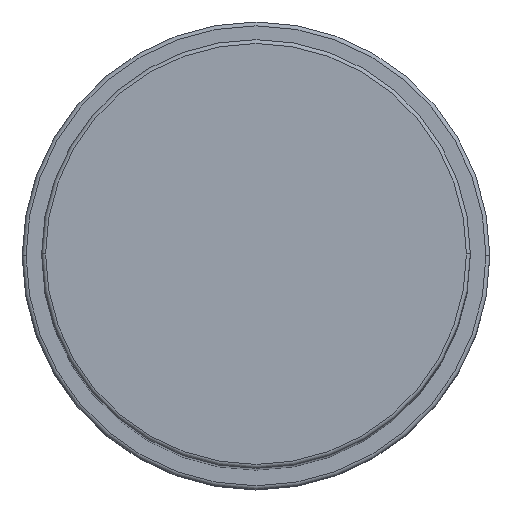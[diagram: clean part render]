
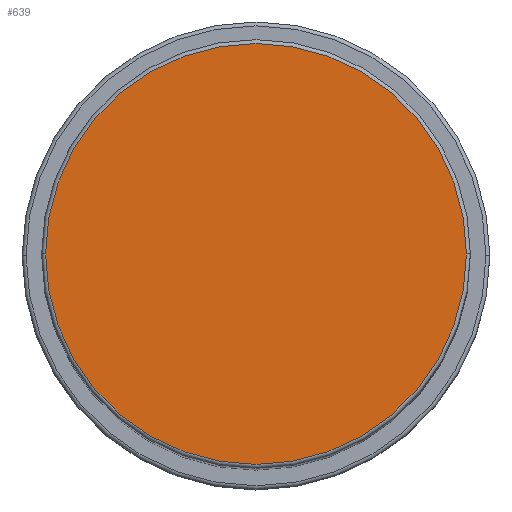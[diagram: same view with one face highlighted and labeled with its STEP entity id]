
A CAD part, top view. The second image highlights one B-rep face of the part: STEP entity #639.
In plain terms, the highlighted planar face has unit normal (0, 0, 1).
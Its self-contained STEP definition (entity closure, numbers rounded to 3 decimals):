
#59 = AXIS2_PLACEMENT_3D ( 'NONE', #419, #1991, #1836 ) ;
#126 = CARTESIAN_POINT ( 'NONE',  ( 0., 0., 148. ) ) ;
#351 = CARTESIAN_POINT ( 'NONE',  ( -27., 0., 148. ) ) ;
#419 = CARTESIAN_POINT ( 'NONE',  ( 0., 0., 148. ) ) ;
#501 = EDGE_CURVE ( 'NONE', #692, #1275, #957, .T. ) ;
#639 = ADVANCED_FACE ( 'NONE', ( #802 ), #1832, .T. ) ;
#692 = VERTEX_POINT ( 'NONE', #351 ) ;
#763 = AXIS2_PLACEMENT_3D ( 'NONE', #126, #1364, #1198 ) ;
#802 = FACE_OUTER_BOUND ( 'NONE', #1346, .T. ) ;
#891 = DIRECTION ( 'NONE',  ( 1., 0., 0. ) ) ;
#957 = CIRCLE ( 'NONE', #763, 27. ) ;
#1140 = CARTESIAN_POINT ( 'NONE',  ( 27., 0., 148. ) ) ;
#1198 = DIRECTION ( 'NONE',  ( 1., 0., 0. ) ) ;
#1275 = VERTEX_POINT ( 'NONE', #1140 ) ;
#1343 = CARTESIAN_POINT ( 'NONE',  ( 0., 0., 148. ) ) ;
#1346 = EDGE_LOOP ( 'NONE', ( #1476, #1403 ) ) ;
#1364 = DIRECTION ( 'NONE',  ( 0., 0., 1. ) ) ;
#1403 = ORIENTED_EDGE ( 'NONE', *, *, #501, .T. ) ;
#1476 = ORIENTED_EDGE ( 'NONE', *, *, #1644, .T. ) ;
#1497 = CIRCLE ( 'NONE', #59, 27. ) ;
#1516 = DIRECTION ( 'NONE',  ( 0., 0., 1. ) ) ;
#1644 = EDGE_CURVE ( 'NONE', #1275, #692, #1497, .T. ) ;
#1702 = AXIS2_PLACEMENT_3D ( 'NONE', #1343, #1516, #891 ) ;
#1832 = PLANE ( 'NONE',  #1702 ) ;
#1836 = DIRECTION ( 'NONE',  ( 1., 0., 0. ) ) ;
#1991 = DIRECTION ( 'NONE',  ( 0., 0., 1. ) ) ;
